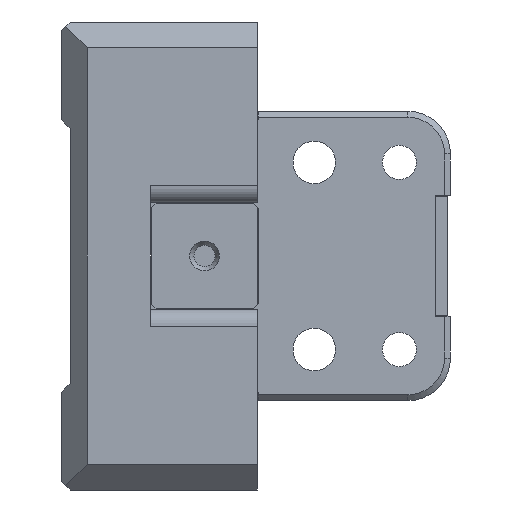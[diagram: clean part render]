
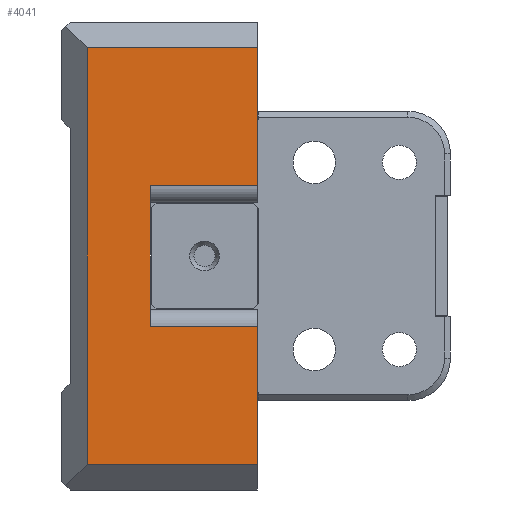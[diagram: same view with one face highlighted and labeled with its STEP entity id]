
A CAD part, left-side view. The second image highlights one B-rep face of the part: STEP entity #4041.
In plain terms, the highlighted planar face has unit normal (-1, 0, 0).
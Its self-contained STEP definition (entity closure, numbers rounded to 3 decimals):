
#176 = EDGE_CURVE ( 'NONE', #3983, #2264, #1245, .T. ) ;
#230 = EDGE_CURVE ( 'NONE', #2264, #1744, #846, .T. ) ;
#302 = ORIENTED_EDGE ( 'NONE', *, *, #5037, .T. ) ;
#354 = DIRECTION ( 'NONE',  ( -1., 0., 0. ) ) ;
#444 = EDGE_CURVE ( 'NONE', #4174, #2487, #1037, .T. ) ;
#524 = LINE ( 'NONE', #1291, #5059 ) ;
#552 = CARTESIAN_POINT ( 'NONE',  ( -160., -3., -27.5 ) ) ;
#605 = FACE_OUTER_BOUND ( 'NONE', #4643, .T. ) ;
#628 = DIRECTION ( 'NONE',  ( 0., 0., -1. ) ) ;
#803 = LINE ( 'NONE', #1896, #1794 ) ;
#846 = LINE ( 'NONE', #4852, #4212 ) ;
#958 = CARTESIAN_POINT ( 'NONE',  ( -160., -23., -8.25 ) ) ;
#986 = ORIENTED_EDGE ( 'NONE', *, *, #1847, .T. ) ;
#1037 = LINE ( 'NONE', #1852, #3239 ) ;
#1079 = LINE ( 'NONE', #2491, #5607 ) ;
#1153 = CARTESIAN_POINT ( 'NONE',  ( -160., -10.4, 8.25 ) ) ;
#1245 = LINE ( 'NONE', #3278, #4486 ) ;
#1279 = VECTOR ( 'NONE', #628, 1000. ) ;
#1284 = DIRECTION ( 'NONE',  ( 0., 0., 1. ) ) ;
#1291 = CARTESIAN_POINT ( 'NONE',  ( -160., -23., -24.5 ) ) ;
#1533 = ORIENTED_EDGE ( 'NONE', *, *, #176, .T. ) ;
#1684 = EDGE_CURVE ( 'NONE', #4675, #2487, #1079, .T. ) ;
#1744 = VERTEX_POINT ( 'NONE', #4435 ) ;
#1794 = VECTOR ( 'NONE', #4539, 1000. ) ;
#1833 = DIRECTION ( 'NONE',  ( 0., -1., 0. ) ) ;
#1847 = EDGE_CURVE ( 'NONE', #1979, #4426, #2446, .T. ) ;
#1852 = CARTESIAN_POINT ( 'NONE',  ( -160., -10.4, -8.25 ) ) ;
#1857 = ORIENTED_EDGE ( 'NONE', *, *, #1684, .T. ) ;
#1896 = CARTESIAN_POINT ( 'NONE',  ( -160., -23., 24.5 ) ) ;
#1979 = VERTEX_POINT ( 'NONE', #2379 ) ;
#2222 = LINE ( 'NONE', #5612, #3273 ) ;
#2264 = VERTEX_POINT ( 'NONE', #5162 ) ;
#2303 = AXIS2_PLACEMENT_3D ( 'NONE', #2955, #354, #3412 ) ;
#2317 = ORIENTED_EDGE ( 'NONE', *, *, #444, .F. ) ;
#2379 = CARTESIAN_POINT ( 'NONE',  ( -160., -3., 24.5 ) ) ;
#2446 = LINE ( 'NONE', #552, #1279 ) ;
#2487 = VERTEX_POINT ( 'NONE', #958 ) ;
#2491 = CARTESIAN_POINT ( 'NONE',  ( -160., -23., -27.5 ) ) ;
#2731 = EDGE_CURVE ( 'NONE', #4426, #4675, #524, .T. ) ;
#2806 = ORIENTED_EDGE ( 'NONE', *, *, #4141, .F. ) ;
#2955 = CARTESIAN_POINT ( 'NONE',  ( -160., -23., -27.5 ) ) ;
#3082 = DIRECTION ( 'NONE',  ( 0., -1., 0. ) ) ;
#3239 = VECTOR ( 'NONE', #1833, 1000. ) ;
#3273 = VECTOR ( 'NONE', #4790, 1000. ) ;
#3278 = CARTESIAN_POINT ( 'NONE',  ( -160., -10.4, 8.25 ) ) ;
#3412 = DIRECTION ( 'NONE',  ( 0., 0., 1. ) ) ;
#3483 = CARTESIAN_POINT ( 'NONE',  ( -160., -10.4, -8.25 ) ) ;
#3983 = VERTEX_POINT ( 'NONE', #1153 ) ;
#4041 = ADVANCED_FACE ( 'NONE', ( #605 ), #5577, .T. ) ;
#4141 = EDGE_CURVE ( 'NONE', #3983, #4174, #2222, .T. ) ;
#4174 = VERTEX_POINT ( 'NONE', #3483 ) ;
#4199 = DIRECTION ( 'NONE',  ( 0., 0., 1. ) ) ;
#4212 = VECTOR ( 'NONE', #1284, 1000. ) ;
#4426 = VERTEX_POINT ( 'NONE', #4549 ) ;
#4435 = CARTESIAN_POINT ( 'NONE',  ( -160., -23., 24.5 ) ) ;
#4486 = VECTOR ( 'NONE', #3082, 1000. ) ;
#4539 = DIRECTION ( 'NONE',  ( 0., 1., 0. ) ) ;
#4549 = CARTESIAN_POINT ( 'NONE',  ( -160., -3., -24.5 ) ) ;
#4643 = EDGE_LOOP ( 'NONE', ( #986, #5378, #1857, #2317, #2806, #1533, #5145, #302 ) ) ;
#4675 = VERTEX_POINT ( 'NONE', #5587 ) ;
#4790 = DIRECTION ( 'NONE',  ( 0., 0., -1. ) ) ;
#4852 = CARTESIAN_POINT ( 'NONE',  ( -160., -23., -27.5 ) ) ;
#5037 = EDGE_CURVE ( 'NONE', #1744, #1979, #803, .T. ) ;
#5059 = VECTOR ( 'NONE', #5266, 1000. ) ;
#5145 = ORIENTED_EDGE ( 'NONE', *, *, #230, .T. ) ;
#5162 = CARTESIAN_POINT ( 'NONE',  ( -160., -23., 8.25 ) ) ;
#5266 = DIRECTION ( 'NONE',  ( 0., -1., 0. ) ) ;
#5378 = ORIENTED_EDGE ( 'NONE', *, *, #2731, .T. ) ;
#5577 = PLANE ( 'NONE',  #2303 ) ;
#5587 = CARTESIAN_POINT ( 'NONE',  ( -160., -23., -24.5 ) ) ;
#5607 = VECTOR ( 'NONE', #4199, 1000. ) ;
#5612 = CARTESIAN_POINT ( 'NONE',  ( -160., -10.4, -8.25 ) ) ;
